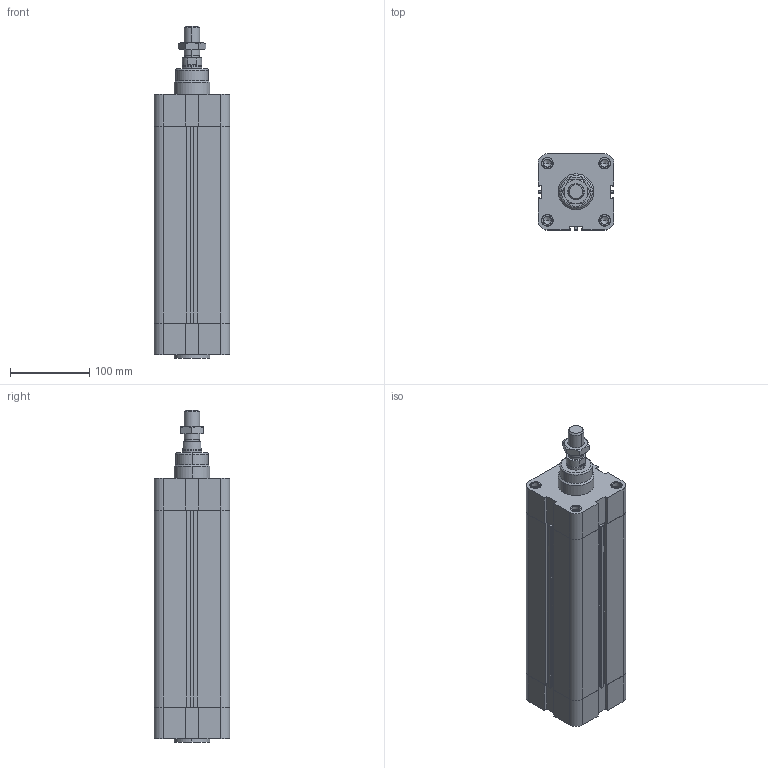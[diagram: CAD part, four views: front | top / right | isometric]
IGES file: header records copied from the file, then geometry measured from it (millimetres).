
Global section: file name: No Iges File Name specified; native system: Autodesk Inventor 2010; preprocessor: AutoDesk Inventor Iges Exporter R2010; author: rivolro1; date: 20090707.103428; units: millimetre
Bounding box: 95.5 x 95.5 x 418 mm (x, y, z)
Volume: 2039272.7 mm3; surface area: 313629.6 mm2
Topology: 5 solids, 5 shells, 290 faces, 694 edges, 440 vertices
Faces by surface type: plane 120, bspline 74, cylinder 40, revolution 34, cone 20, torus 2
